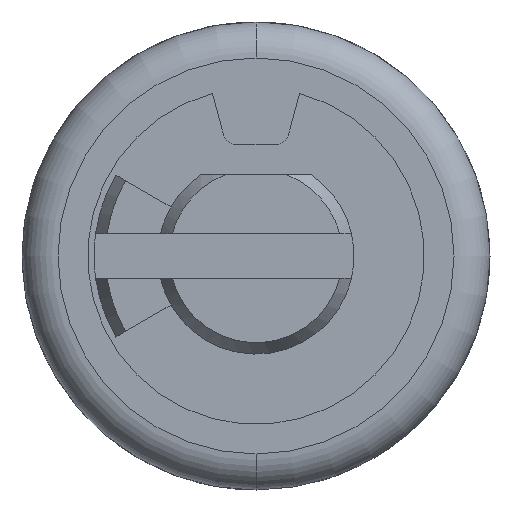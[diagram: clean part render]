
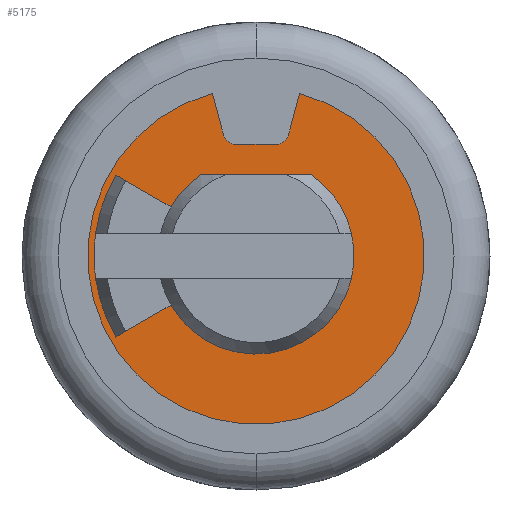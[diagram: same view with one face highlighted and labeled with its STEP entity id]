
A CAD part, front view. The second image highlights one B-rep face of the part: STEP entity #5175.
In plain terms, the highlighted planar face has unit normal (0, -1, 0).
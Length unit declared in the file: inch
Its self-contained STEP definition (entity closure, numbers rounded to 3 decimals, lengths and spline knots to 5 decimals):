
#1652=CARTESIAN_POINT('',(0.,-0.067,0.));
#1653=DIRECTION('',(0.,-1.,0.));
#1654=DIRECTION('',(-0.99,0.,0.139));
#1655=AXIS2_PLACEMENT_3D('',#1652,#1653,#1654);
#1660=CARTESIAN_POINT('',(0.,-0.067,0.));
#1661=DIRECTION('',(0.,-1.,0.));
#1662=DIRECTION('',(-0.99,0.,-0.139));
#1663=AXIS2_PLACEMENT_3D('',#1660,#1661,#1662);
#1668=DIRECTION('',(0.866,0.,0.5));
#1669=VECTOR('',#1668,0.0355);
#1670=CARTESIAN_POINT('',(-0.07794,-0.067,-0.045));
#1671=LINE('',#1670,#1669);
#1675=CARTESIAN_POINT('',(0.,-0.067,0.));
#1676=DIRECTION('',(0.,-1.,0.));
#1677=DIRECTION('',(-0.866,0.,-0.5));
#1678=AXIS2_PLACEMENT_3D('',#1675,#1676,#1677);
#1683=CARTESIAN_POINT('',(0.,-0.067,0.));
#1684=DIRECTION('',(0.,-1.,0.));
#1685=DIRECTION('',(0.973,0.,-0.229));
#1686=AXIS2_PLACEMENT_3D('',#1683,#1684,#1685);
#1691=CARTESIAN_POINT('',(0.,-0.067,0.));
#1692=DIRECTION('',(0.,-1.,0.));
#1693=DIRECTION('',(0.973,0.,0.229));
#1694=AXIS2_PLACEMENT_3D('',#1691,#1692,#1693);
#1699=DIRECTION('',(-1.,0.,0.));
#1700=VECTOR('',#1699,0.06149);
#1701=CARTESIAN_POINT('',(0.03074,-0.067,0.045));
#1702=LINE('',#1701,#1700);
#1706=CARTESIAN_POINT('',(0.,-0.067,0.));
#1707=DIRECTION('',(0.,-1.,0.));
#1708=DIRECTION('',(-0.564,0.,0.826));
#1709=AXIS2_PLACEMENT_3D('',#1706,#1707,#1708);
#1714=DIRECTION('',(-0.866,0.,0.5));
#1715=VECTOR('',#1714,0.0355);
#1716=CARTESIAN_POINT('',(-0.0472,-0.067,0.02725));
#1717=LINE('',#1716,#1715);
#1721=CARTESIAN_POINT('',(0.,-0.067,0.));
#1722=DIRECTION('',(0.,-1.,0.));
#1723=DIRECTION('',(-0.866,0.,0.5));
#1724=AXIS2_PLACEMENT_3D('',#1721,#1722,#1723);
#1729=DIRECTION('',(1.,0.,0.));
#1730=VECTOR('',#1729,0.02248);
#1731=CARTESIAN_POINT('',(-0.01124,-0.067,0.062));
#1732=LINE('',#1731,#1730);
#1736=CARTESIAN_POINT('',(0.01124,-0.067,0.069));
#1737=DIRECTION('',(0.,1.,0.));
#1738=DIRECTION('',(0.966,0.,-0.259));
#1739=AXIS2_PLACEMENT_3D('',#1736,#1737,#1738);
#1744=DIRECTION('',(0.259,0.,0.966));
#1745=VECTOR('',#1744,0.02394);
#1746=CARTESIAN_POINT('',(0.018,-0.067,0.06719));
#1747=LINE('',#1746,#1745);
#1751=CARTESIAN_POINT('',(0.,-0.067,0.));
#1752=DIRECTION('',(0.,1.,0.));
#1753=DIRECTION('',(0.259,0.,0.966));
#1754=AXIS2_PLACEMENT_3D('',#1751,#1752,#1753);
#1759=DIRECTION('',(0.259,0.,-0.966));
#1760=VECTOR('',#1759,0.02394);
#1761=CARTESIAN_POINT('',(-0.0242,-0.067,0.09031));
#1762=LINE('',#1761,#1760);
#1766=CARTESIAN_POINT('',(-0.01124,-0.067,0.069));
#1767=DIRECTION('',(0.,1.,0.));
#1768=DIRECTION('',(0.,0.,-1.));
#1769=AXIS2_PLACEMENT_3D('',#1766,#1767,#1768);
#3613=CARTESIAN_POINT('',(0.03074,-0.067,0.045));
#3614=CARTESIAN_POINT('',(-0.03074,-0.067,0.045));
#3615=VERTEX_POINT('',#3613);
#3616=VERTEX_POINT('',#3614);
#3617=CARTESIAN_POINT('',(-0.0472,-0.067,0.02725));
#3618=CARTESIAN_POINT('',(-0.07794,-0.067,0.045));
#3619=VERTEX_POINT('',#3617);
#3620=VERTEX_POINT('',#3618);
#3621=CARTESIAN_POINT('',(-0.07794,-0.067,-0.045));
#3622=CARTESIAN_POINT('',(-0.0472,-0.067,-0.02725));
#3623=VERTEX_POINT('',#3621);
#3624=VERTEX_POINT('',#3622);
#3637=CARTESIAN_POINT('',(-0.08913,-0.067,0.0125));
#3638=CARTESIAN_POINT('',(-0.08913,-0.067,-0.0125));
#3639=VERTEX_POINT('',#3637);
#3640=VERTEX_POINT('',#3638);
#3641=CARTESIAN_POINT('',(0.05305,-0.067,-0.0125));
#3642=CARTESIAN_POINT('',(0.05305,-0.067,0.0125));
#3643=VERTEX_POINT('',#3641);
#3644=VERTEX_POINT('',#3642);
#3919=CARTESIAN_POINT('',(-0.01124,-0.067,0.062));
#3920=CARTESIAN_POINT('',(0.01124,-0.067,0.062));
#3921=VERTEX_POINT('',#3919);
#3922=VERTEX_POINT('',#3920);
#3923=CARTESIAN_POINT('',(0.018,-0.067,0.06719));
#3924=CARTESIAN_POINT('',(0.0242,-0.067,0.09031));
#3925=VERTEX_POINT('',#3923);
#3926=VERTEX_POINT('',#3924);
#3927=CARTESIAN_POINT('',(-0.0242,-0.067,0.09031));
#3928=VERTEX_POINT('',#3927);
#3929=CARTESIAN_POINT('',(-0.018,-0.067,0.06719));
#3930=VERTEX_POINT('',#3929);
#5135=CARTESIAN_POINT('',(0.,-0.067,0.));
#5136=DIRECTION('',(0.,1.,0.));
#5137=DIRECTION('',(1.,0.,0.));
#5138=AXIS2_PLACEMENT_3D('',#5135,#5136,#5137);
#5139=PLANE('',#5138);
#5141=ORIENTED_EDGE('',*,*,#5140,.T.);
#5142=ORIENTED_EDGE('',*,*,#5125,.F.);
#5144=ORIENTED_EDGE('',*,*,#5143,.T.);
#5146=ORIENTED_EDGE('',*,*,#5145,.T.);
#5148=ORIENTED_EDGE('',*,*,#5147,.T.);
#5150=ORIENTED_EDGE('',*,*,#5149,.F.);
#5151=EDGE_LOOP('',(#5141,#5142,#5144,#5146,#5148,#5150));
#5152=FACE_OUTER_BOUND('',#5151,.F.);
#5154=ORIENTED_EDGE('',*,*,#5153,.T.);
#5156=ORIENTED_EDGE('',*,*,#5155,.T.);
#5158=ORIENTED_EDGE('',*,*,#5157,.T.);
#5160=ORIENTED_EDGE('',*,*,#5159,.T.);
#5162=ORIENTED_EDGE('',*,*,#5161,.T.);
#5164=ORIENTED_EDGE('',*,*,#5163,.T.);
#5166=ORIENTED_EDGE('',*,*,#5165,.T.);
#5168=ORIENTED_EDGE('',*,*,#5167,.T.);
#5170=ORIENTED_EDGE('',*,*,#5169,.T.);
#5172=ORIENTED_EDGE('',*,*,#5171,.T.);
#5173=EDGE_LOOP('',(#5154,#5156,#5158,#5160,#5162,#5164,#5166,#5168,#5170,
#5172));
#5174=FACE_BOUND('',#5173,.F.);
#1656=CIRCLE('',#1655,0.09);
#1664=CIRCLE('',#1663,0.09);
#1679=CIRCLE('',#1678,0.0545);
#1687=CIRCLE('',#1686,0.0545);
#1695=CIRCLE('',#1694,0.0545);
#1710=CIRCLE('',#1709,0.0545);
#1725=CIRCLE('',#1724,0.09);
#1740=CIRCLE('',#1739,0.007);
#1755=CIRCLE('',#1754,0.0935);
#1770=CIRCLE('',#1769,0.007);
#5125=EDGE_CURVE('',#3925,#3922,#1740,.T.);
#5140=EDGE_CURVE('',#3921,#3922,#1732,.T.);
#5143=EDGE_CURVE('',#3925,#3926,#1747,.T.);
#5145=EDGE_CURVE('',#3926,#3928,#1755,.T.);
#5147=EDGE_CURVE('',#3928,#3930,#1762,.T.);
#5149=EDGE_CURVE('',#3921,#3930,#1770,.T.);
#5153=EDGE_CURVE('',#3639,#3640,#1656,.T.);
#5155=EDGE_CURVE('',#3640,#3623,#1664,.T.);
#5157=EDGE_CURVE('',#3623,#3624,#1671,.T.);
#5159=EDGE_CURVE('',#3624,#3643,#1679,.T.);
#5161=EDGE_CURVE('',#3643,#3644,#1687,.T.);
#5163=EDGE_CURVE('',#3644,#3615,#1695,.T.);
#5165=EDGE_CURVE('',#3615,#3616,#1702,.T.);
#5167=EDGE_CURVE('',#3616,#3619,#1710,.T.);
#5169=EDGE_CURVE('',#3619,#3620,#1717,.T.);
#5171=EDGE_CURVE('',#3620,#3639,#1725,.T.);
#5175=ADVANCED_FACE('',(#5152,#5174),#5139,.F.);
